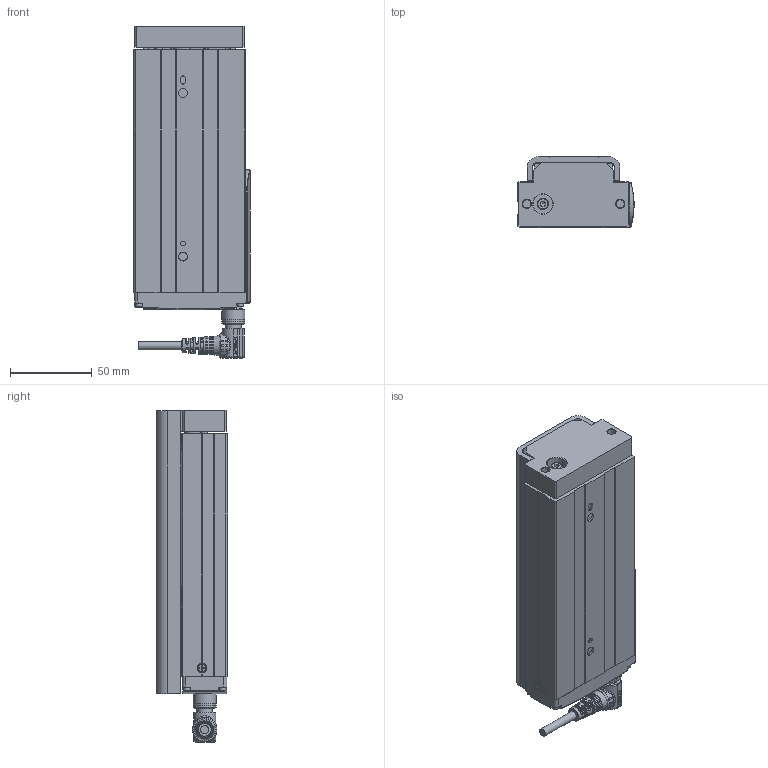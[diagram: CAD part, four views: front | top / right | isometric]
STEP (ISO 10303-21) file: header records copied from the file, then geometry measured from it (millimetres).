
FILE_DESCRIPTION(/* description */ ('STEP AP203'),/* implementation_level */ '2;1');
FILE_NAME(/* name */ 'D:\暫\2025.02.06 CSG 3D\CSG25\CSG25-S100-WR.stp',/* time_stamp */ '2025-02-08T10:07:12+08:00',/* author */ ('T10033'),/* organization */ (''),/* preprocessor_version */ 'ST-DEVELOPER v18.1',/* originating_system */ 'Autodesk Inventor 2020',/* authorisation */ '');
FILE_SCHEMA (('CONFIG_CONTROL_DESIGN'));
Products named in the file (17): CSG25-50行程-180接頭-完整組合; countersunk flat head cross recess screw_iso_ISO 7046-1 - M2.5 x 4 - 
Z - 4N; ©T©wªO-·¥­­¾×ª
O4-M2¤ú; socket head cap screw_iso_ISO 4762 M2.5 x 6 - 6N; socket head cap screw_iso_ISO 4762 M2.5 x 8 - 8N; ¶ì½¦ºÝ»-L¼Ë¦¡
(TOYO); socket head cap screw_iso_ISO 4762 M2 x 12 - 12N; M12 -14PIN  ªOºÝ-²Ä¤@ºØ
³W®æ; CSG25-50¥»Åé3ª©-ªo¤Õ
½Õ¾ã¨¤«×; CSG25-Carriage-newtype; Solid1-2; M12-14PIN 線端90度接頭-05中繼線; socket head cap screw_iso_ISO 4762 M2.5 x 5 - 5N; 12003-000221-­×§ï; 22024-000496; CNS 3932 - M 4 x 0.7 x 12; CNS 4558 - M5 x 0.8 x 12
Assembly tree (28 placements, depth 2):
  CSG25-50行程-180接頭-完整組合
    socket head cap screw_iso_ISO 4762 M2.5 x 8 - 8N  x8
    countersunk flat head cross recess screw_iso_ISO 7046-1 - M2.5 x 4 - 
Z - 4N
    ©T©wªO-·¥­­¾×ª
O4-M2¤ú
    socket head cap screw_iso_ISO 4762 M2.5 x 6 - 6N  x2
    ¶ì½¦ºÝ»-L¼Ë¦¡
(TOYO)
    socket head cap screw_iso_ISO 4762 M2 x 12 - 12N  x4
    M12 -14PIN  ªOºÝ-²Ä¤@ºØ
³W®æ
    CSG25-50¥»Åé3ª©-ªo¤Õ
½Õ¾ã¨¤«×
    CSG25-Carriage-newtype
    Solid1-2
    M12-14PIN 線端90度接頭-05中繼線
    socket head cap screw_iso_ISO 4762 M2.5 x 5 - 5N
    12003-000221-­×§ï
    22024-000496
    CNS 3932 - M 4 x 0.7 x 12
    CNS 4558 - M5 x 0.8 x 12  x2
Bounding box: 71 x 43.5 x 203 mm (x, y, z)
Volume: 404935 mm3; surface area: 98915.5 mm2
Topology: 42 solids, 51 shells, 2978 faces, 8190 edges, 5439 vertices
Faces by surface type: plane 1429, bspline 647, cylinder 492, cone 282, torus 124, sphere 4
Full cylindrical faces by diameter (mm): 0.6 x14, 0.65 x14, 1 x14, 1.6 x4, 2 x4, 2.05 x3, 2.5 x12, 2.9 x2, 3 x3, 3.8 x4, 4 x1, 4.134 x8, 4.5 x11, 4.7 x1, 5 x6, 5.3 x2, 5.4 x4, 5.5 x4, 6 x3, 7 x1, 8 x1, 8.9 x1, 9 x12, 9.5 x2, 9.6 x1, 10 x6, 10.4 x2, 10.5 x2, 10.9 x1, 11 x3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
Entity records: 115035 total; most frequent: CARTESIAN_POINT 44506, ORIENTED_EDGE 15100, DIRECTION 13226, EDGE_CURVE 7568, VERTEX_POINT 5052, AXIS2_PLACEMENT_3D 4617, LINE 3992, VECTOR 3992
